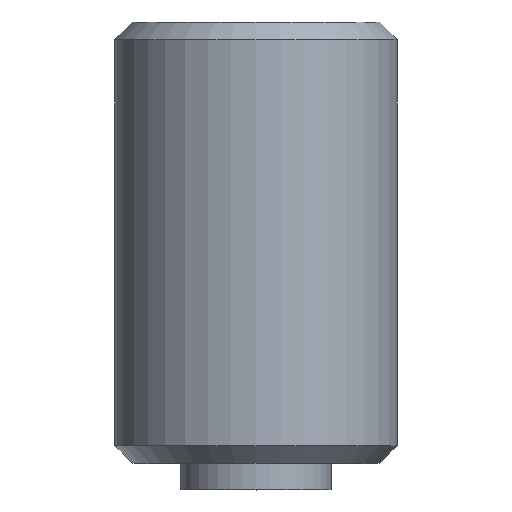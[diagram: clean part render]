
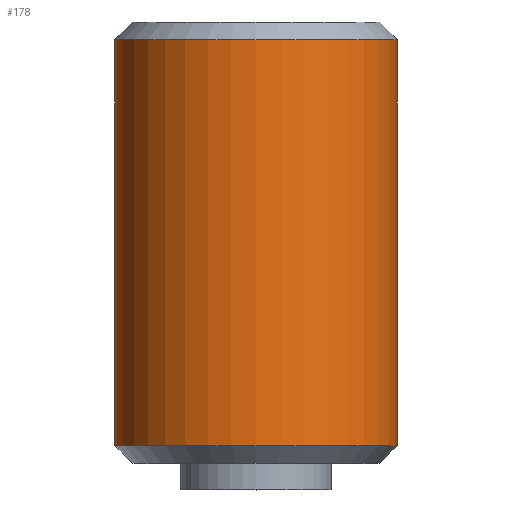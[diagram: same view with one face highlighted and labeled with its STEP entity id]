
A CAD part, top view. The second image highlights one B-rep face of the part: STEP entity #178.
In plain terms, the highlighted cylindrical face has radius 8 mm (diameter 16 mm), a full revolution.
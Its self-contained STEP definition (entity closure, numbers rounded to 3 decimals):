
#178 = ADVANCED_FACE( '', ( #213, #214 ), #215, .T. );
#213 = FACE_OUTER_BOUND( '', #259, .T. );
#214 = FACE_OUTER_BOUND( '', #260, .T. );
#215 = CYLINDRICAL_SURFACE( '', #261, 8. );
#259 = EDGE_LOOP( '', ( #333 ) );
#260 = EDGE_LOOP( '', ( #334 ) );
#261 = AXIS2_PLACEMENT_3D( '', #335, #336, #337 );
#333 = ORIENTED_EDGE( '', *, *, #406, .F. );
#334 = ORIENTED_EDGE( '', *, *, #389, .T. );
#335 = CARTESIAN_POINT( '', ( 0., 0., 0. ) );
#336 = DIRECTION( '', ( 0., 1., 0. ) );
#337 = DIRECTION( '', ( 0., 0., -1. ) );
#389 = EDGE_CURVE( '', #417, #417, #418, .T. );
#406 = EDGE_CURVE( '', #449, #449, #450, .T. );
#417 = VERTEX_POINT( '', #465 );
#418 = CIRCLE( '', #466, 8. );
#449 = VERTEX_POINT( '', #508 );
#450 = CIRCLE( '', #509, 8. );
#465 = CARTESIAN_POINT( '', ( 0., 24., -8. ) );
#466 = AXIS2_PLACEMENT_3D( '', #531, #532, #533 );
#508 = CARTESIAN_POINT( '', ( 0., 1., -8. ) );
#509 = AXIS2_PLACEMENT_3D( '', #560, #561, #562 );
#531 = CARTESIAN_POINT( '', ( 0., 24., 0. ) );
#532 = DIRECTION( '', ( 0., -1., 0. ) );
#533 = DIRECTION( '', ( 0., 0., -1. ) );
#560 = CARTESIAN_POINT( '', ( 0., 1., 0. ) );
#561 = DIRECTION( '', ( 0., -1., 0. ) );
#562 = DIRECTION( '', ( 0., 0., -1. ) );
